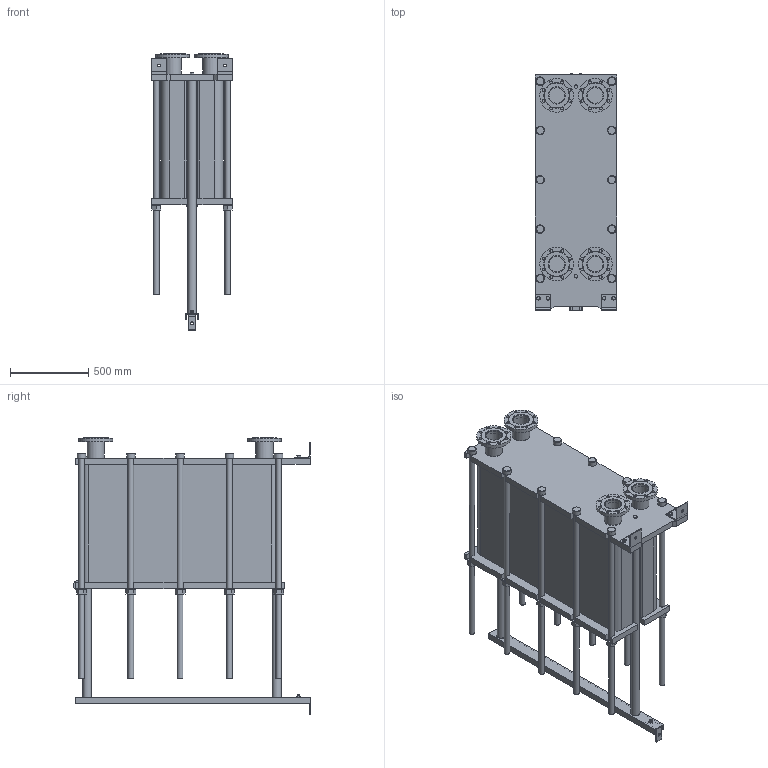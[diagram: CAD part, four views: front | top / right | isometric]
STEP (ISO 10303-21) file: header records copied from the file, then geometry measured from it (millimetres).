
FILE_DESCRIPTION(/* description */ (''),/* implementation_level */ '2;1');
FILE_NAME(/* name */ 'C:\Users\zhuro\Desktop\ENCO\TO\ЭН-04\ЭН-0,5-04-218-1.stp',/* time_stamp */ '2022-06-06T11:04:58+03:00',/* author */ ('zhuro'),/* organization */ (''),/* preprocessor_version */ 'ST-DEVELOPER v18.1',/* originating_system */ 'Autodesk Inventor 2022',/* authorisation */ '');
FILE_SCHEMA (('AUTOMOTIVE_DESIGN { 1 0 10303 214 3 1 1 }'));
Length unit declared in the file: millimetre
Products named in the file (1): ЭН-0,5-04-218-1
Bounding box: 520 x 1510 x 1764 mm (x, y, z)
Volume: 453424515.7 mm3; surface area: 10950093.1 mm2
Topology: 45 solids, 45 shells, 668 faces, 1611 edges, 1048 vertices
Faces by surface type: plane 457, cylinder 166, cone 39, torus 6
Full cylindrical faces by diameter (mm): 8 x4, 10 x2, 16 x8, 18 x35, 36 x25, 40 x2, 42 x1, 45 x4, 54 x10, 57 x2, 60 x10, 68 x2, 100 x4, 110 x8, 215 x4
Entity records: 23607 total; most frequent: CARTESIAN_POINT 7348, DIRECTION 3371, ORIENTED_EDGE 3142, EDGE_CURVE 1571, AXIS2_PLACEMENT_3D 1199, VERTEX_POINT 1044, LINE 973, VECTOR 973
